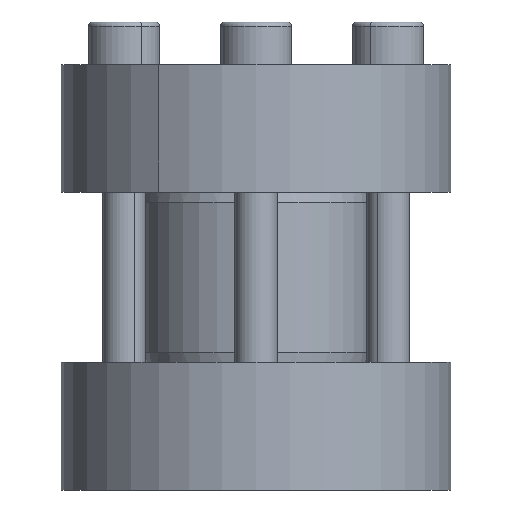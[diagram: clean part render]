
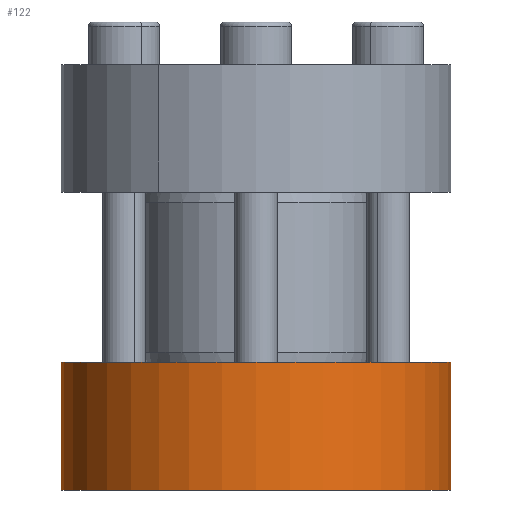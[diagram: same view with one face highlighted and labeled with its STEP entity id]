
A CAD part, front view. The second image highlights one B-rep face of the part: STEP entity #122.
In plain terms, the highlighted cylindrical face has radius 27.5 mm (diameter 55 mm), a partial arc.
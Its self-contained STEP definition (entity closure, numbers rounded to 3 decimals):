
#31 = CARTESIAN_POINT ( 'NONE',  ( 0., 0., 16.493 ) ) ;
#122 = ADVANCED_FACE ( 'NONE', ( #1476 ), #6065, .T. ) ;
#290 = DIRECTION ( 'NONE',  ( 0., 0., -1. ) ) ;
#409 = ORIENTED_EDGE ( 'NONE', *, *, #7221, .T. ) ;
#670 = EDGE_CURVE ( 'NONE', #2017, #5589, #9263, .T. ) ;
#761 = DIRECTION ( 'NONE',  ( 1., 0., 0. ) ) ;
#808 = CARTESIAN_POINT ( 'NONE',  ( -27.5, 0., 16.493 ) ) ;
#945 = EDGE_CURVE ( 'NONE', #2436, #7663, #4290, .T. ) ;
#1476 = FACE_OUTER_BOUND ( 'NONE', #7930, .T. ) ;
#1756 = AXIS2_PLACEMENT_3D ( 'NONE', #6174, #1911, #6887 ) ;
#1911 = DIRECTION ( 'NONE',  ( 0., 0., 1. ) ) ;
#2017 = VERTEX_POINT ( 'NONE', #8434 ) ;
#2178 = ORIENTED_EDGE ( 'NONE', *, *, #945, .T. ) ;
#2436 = VERTEX_POINT ( 'NONE', #7511 ) ;
#2784 = AXIS2_PLACEMENT_3D ( 'NONE', #31, #5020, #761 ) ;
#3055 = EDGE_CURVE ( 'NONE', #5589, #7663, #3878, .T. ) ;
#3878 = LINE ( 'NONE', #4561, #7671 ) ;
#4290 = CIRCLE ( 'NONE', #1756, 27.5 ) ;
#4301 = AXIS2_PLACEMENT_3D ( 'NONE', #4941, #7783, #7928 ) ;
#4317 = LINE ( 'NONE', #808, #7888 ) ;
#4357 = DIRECTION ( 'NONE',  ( 0., 0., -1. ) ) ;
#4561 = CARTESIAN_POINT ( 'NONE',  ( 27.5, 0., 16.493 ) ) ;
#4941 = CARTESIAN_POINT ( 'NONE',  ( 0., 0., 16.493 ) ) ;
#5020 = DIRECTION ( 'NONE',  ( 0., 0., 1. ) ) ;
#5589 = VERTEX_POINT ( 'NONE', #7183 ) ;
#5793 = ORIENTED_EDGE ( 'NONE', *, *, #670, .F. ) ;
#6044 = ORIENTED_EDGE ( 'NONE', *, *, #3055, .F. ) ;
#6065 = CYLINDRICAL_SURFACE ( 'NONE', #4301, 27.5 ) ;
#6174 = CARTESIAN_POINT ( 'NONE',  ( 0., 0., -1.507 ) ) ;
#6887 = DIRECTION ( 'NONE',  ( 1., 0., 0. ) ) ;
#7183 = CARTESIAN_POINT ( 'NONE',  ( 27.5, 0., 16.493 ) ) ;
#7221 = EDGE_CURVE ( 'NONE', #2017, #2436, #4317, .T. ) ;
#7511 = CARTESIAN_POINT ( 'NONE',  ( -27.5, 0., -1.507 ) ) ;
#7527 = CARTESIAN_POINT ( 'NONE',  ( 27.5, 0., -1.507 ) ) ;
#7663 = VERTEX_POINT ( 'NONE', #7527 ) ;
#7671 = VECTOR ( 'NONE', #290, 1000. ) ;
#7783 = DIRECTION ( 'NONE',  ( 0., 0., -1. ) ) ;
#7888 = VECTOR ( 'NONE', #4357, 1000. ) ;
#7928 = DIRECTION ( 'NONE',  ( -1., 0., 0. ) ) ;
#7930 = EDGE_LOOP ( 'NONE', ( #6044, #5793, #409, #2178 ) ) ;
#8434 = CARTESIAN_POINT ( 'NONE',  ( -27.5, 0., 16.493 ) ) ;
#9263 = CIRCLE ( 'NONE', #2784, 27.5 ) ;
